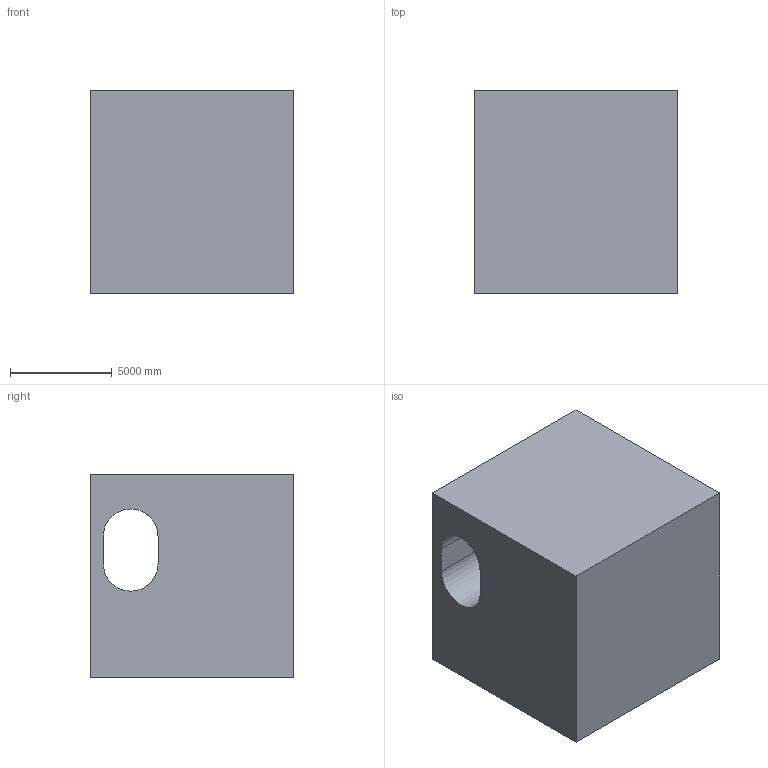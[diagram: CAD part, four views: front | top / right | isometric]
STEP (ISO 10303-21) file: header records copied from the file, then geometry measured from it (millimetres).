
FILE_DESCRIPTION (( 'STEP AP203' ), '1' );
FILE_NAME ('114.STEP', '2022-09-06T15:07:03', ( 'user' ), ( '' ), 'SwSTEP 2.0', 'SolidWorks 2021', '' );
FILE_SCHEMA (( 'CONFIG_CONTROL_DESIGN' ));
Length unit declared in the file: centimetre
Products named in the file (1): 114
Bounding box: 10000 x 10000 x 10000 mm (x, y, z)
Volume: 866172316784.8 mm3; surface area: 753150316 mm2
Topology: 1 solids, 1 shells, 20 faces, 57 edges, 38 vertices
Faces by surface type: plane 17, cylinder 3
Entity records: 732 total; most frequent: CARTESIAN_POINT 134, ORIENTED_EDGE 114, DIRECTION 99, EDGE_CURVE 57, VECTOR 45, LINE 45, VERTEX_POINT 38, AXIS2_PLACEMENT_3D 27
